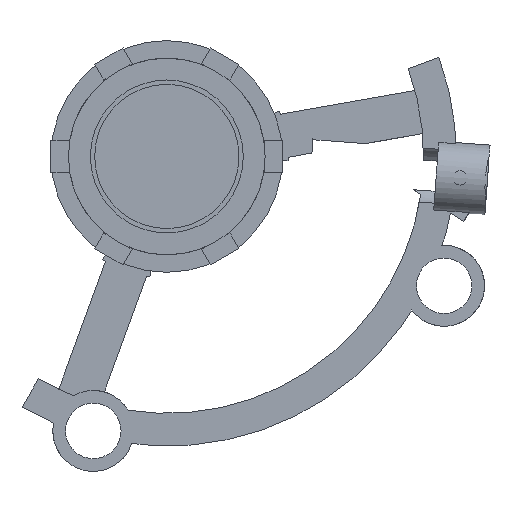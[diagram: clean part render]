
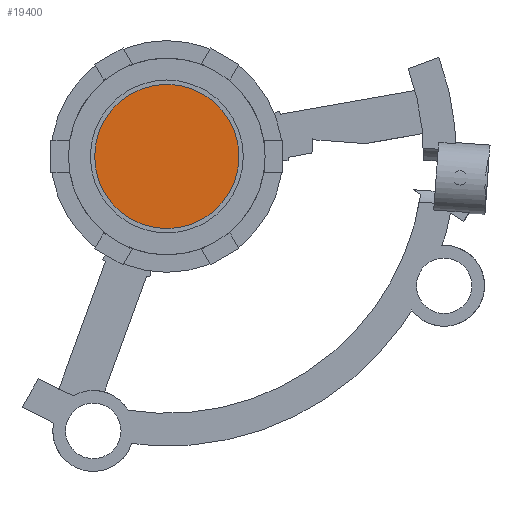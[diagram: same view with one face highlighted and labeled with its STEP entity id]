
A CAD part, left-side view. The second image highlights one B-rep face of the part: STEP entity #19400.
In plain terms, the highlighted planar face has unit normal (-1, 0, 0).
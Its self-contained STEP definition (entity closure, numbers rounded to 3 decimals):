
#19275 = CYLINDRICAL_SURFACE('',#19276,6.6);
#19276 = AXIS2_PLACEMENT_3D('',#19277,#19278,#19279);
#19277 = CARTESIAN_POINT('',(-64.07,-49.893,-53.918));
#19278 = DIRECTION('',(1.,0.,0.));
#19279 = DIRECTION('',(-0.,1.,0.));
#19346 = VERTEX_POINT('',#19347);
#19347 = CARTESIAN_POINT('',(-64.,-43.293,-53.918));
#19370 = EDGE_CURVE('',#19346,#19346,#19371,.T.);
#19371 = SURFACE_CURVE('',#19372,(#19377,#19384),.PCURVE_S1.);
#19372 = CIRCLE('',#19373,6.6);
#19373 = AXIS2_PLACEMENT_3D('',#19374,#19375,#19376);
#19374 = CARTESIAN_POINT('',(-64.,-49.893,-53.918));
#19375 = DIRECTION('',(1.,0.,0.));
#19376 = DIRECTION('',(-0.,1.,0.));
#19377 = PCURVE('',#19275,#19378);
#19378 = DEFINITIONAL_REPRESENTATION('',(#19379),#19383);
#19379 = LINE('',#19380,#19381);
#19380 = CARTESIAN_POINT('',(0.,0.07));
#19381 = VECTOR('',#19382,1.);
#19382 = DIRECTION('',(1.,0.));
#19383 = ( GEOMETRIC_REPRESENTATION_CONTEXT(2) 
PARAMETRIC_REPRESENTATION_CONTEXT() REPRESENTATION_CONTEXT('2D SPACE',''
  ) );
#19384 = PCURVE('',#19385,#19390);
#19385 = PLANE('',#19386);
#19386 = AXIS2_PLACEMENT_3D('',#19387,#19388,#19389);
#19387 = CARTESIAN_POINT('',(-64.,-49.893,-53.918));
#19388 = DIRECTION('',(1.,0.,0.));
#19389 = DIRECTION('',(-0.,1.,0.));
#19390 = DEFINITIONAL_REPRESENTATION('',(#19391),#19395);
#19391 = CIRCLE('',#19392,6.6);
#19392 = AXIS2_PLACEMENT_2D('',#19393,#19394);
#19393 = CARTESIAN_POINT('',(0.,0.));
#19394 = DIRECTION('',(1.,0.));
#19395 = ( GEOMETRIC_REPRESENTATION_CONTEXT(2) 
PARAMETRIC_REPRESENTATION_CONTEXT() REPRESENTATION_CONTEXT('2D SPACE',''
  ) );
#19400 = ADVANCED_FACE('',(#19401),#19385,.F.);
#19401 = FACE_BOUND('',#19402,.F.);
#19402 = EDGE_LOOP('',(#19403));
#19403 = ORIENTED_EDGE('',*,*,#19370,.T.);
